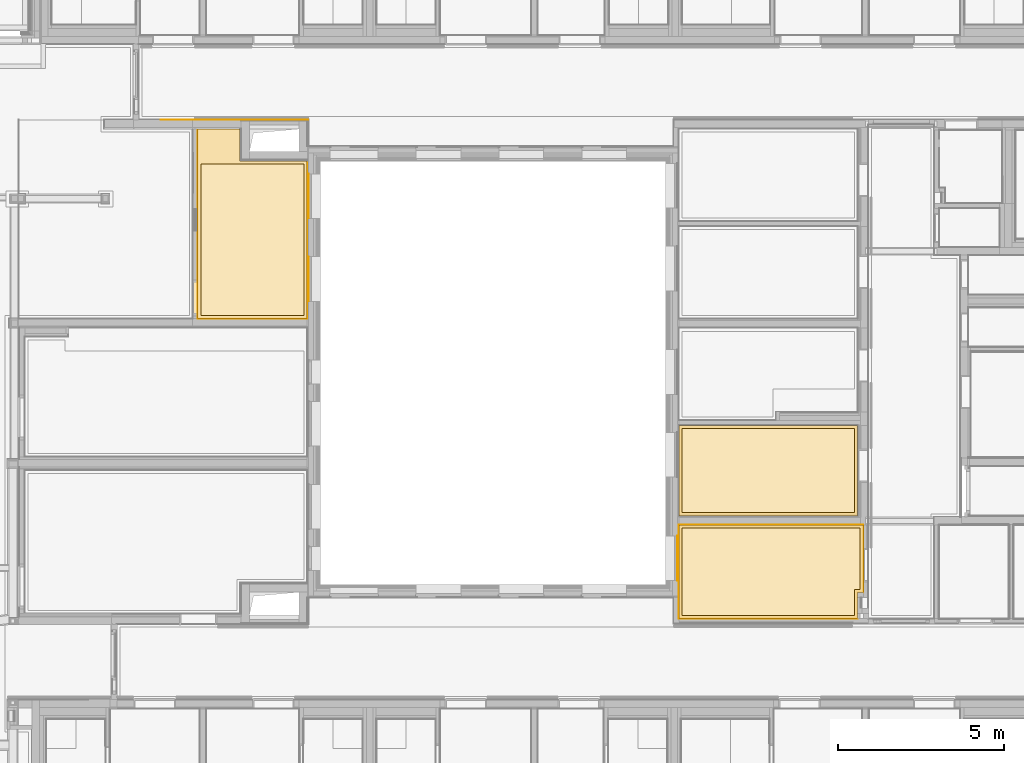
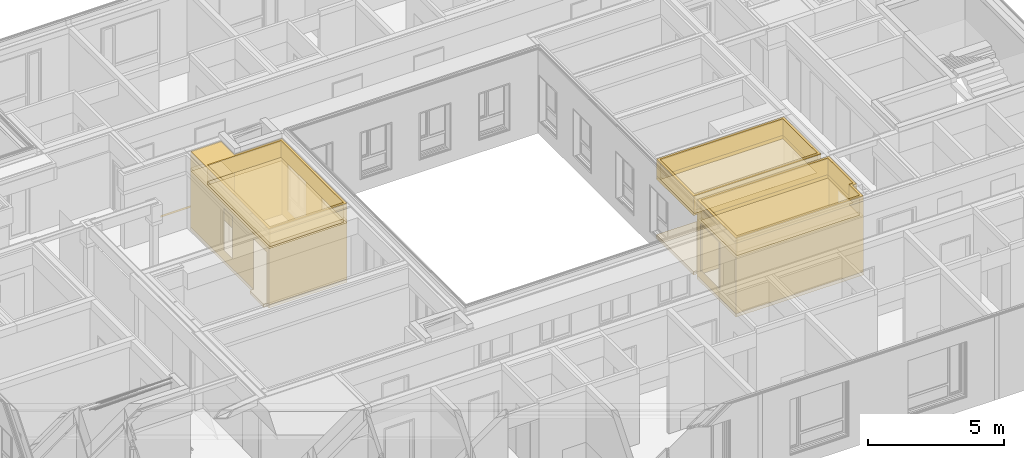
# One storey, part 191 of 222: 30 coverings.
"""IFC4 building model written with IfcOpenShell, lengths in metres."""

from ifc_helpers import new_model, entity, si_unit, converted_unit, derived_unit, frame, frame_2d, origin, origin_with_axes, place, context, subcontext, project, spatial, polyline, rectangle, outline, extrude, material, layer, layer_set, layer_usage, element, save


model = new_model("IFC4")

# Units and contexts
model_context = context("Model", 3, precision=1e-05, world=origin())
body_context = subcontext(model_context, "Body", "Model", "MODEL_VIEW")
ifc_project = project(units=[si_unit("LENGTHUNIT", "METRE"), si_unit("AREAUNIT", "SQUARE_METRE"), si_unit("VOLUMEUNIT", "CUBIC_METRE"), si_unit("MASSUNIT", "GRAM", prefix="KILO"), converted_unit("PLANEANGLEUNIT", "DEGREE", entity("IfcPlaneAngleMeasure", 0.0174532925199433), si_unit("PLANEANGLEUNIT", "RADIAN"), dimensions=[0, 0, 0, 0, 0, 0, 0]), derived_unit("THERMALTRANSMITTANCEUNIT", [(si_unit("POWERUNIT", "WATT"), 1), (si_unit("THERMODYNAMICTEMPERATUREUNIT", "KELVIN"), -1), (si_unit("LENGTHUNIT", "METRE"), -2)]), derived_unit("VOLUMETRICFLOWRATEUNIT", [(si_unit("LENGTHUNIT", "METRE"), 3), (converted_unit("TIMEUNIT", "hour", entity("IfcTimeMeasure", 3600.0), si_unit("TIMEUNIT", "SECOND"), dimensions=[0, 0, 1, 0, 0, 0, 0]), -1), (si_unit("LENGTHUNIT", "METRE"), -1)])], contexts=[model_context])

# Site, building, storey, space
site_placement = place(None, origin())
site = spatial("IfcSite", under=ifc_project, at=site_placement, Name="Psychiatrie Neubau Wunstorf", CompositionType="ELEMENT")
building_placement = place(site_placement, origin())
building = spatial("IfcBuilding", under=site, at=building_placement, Name="Neubau H2 Stationsgebäude", CompositionType="ELEMENT")
storey_placement = place(building_placement, frame((0.0, 0.0, 3.6)))
storey = spatial("IfcBuildingStorey", under=building, at=storey_placement, Name="H2 Ebene +1", CompositionType="ELEMENT", Elevation=3.6)
space_1_placement = place(storey_placement, frame((74.055, 22.036, 0.0)))
space_1 = spatial("IfcSpace", under=storey, at=space_1_placement, Name="WUN-H2-E01-073", CompositionType="ELEMENT")

# Covering
ifc_material_1 = material(Name="97")
ifc_layer_1 = layer(ifc_material_1, 0.001)
ifc_layer_set_1 = layer_set([ifc_layer_1])
ifc_layer_usage_1 = layer_usage(ifc_layer_set_1, "AXIS3", "POSITIVE", 0.0)
covering_1_placement = place(space_1_placement, frame((0.66, 0.799999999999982, 0.8)))
element("IfcCovering", 1, at=covering_1_placement, inside=space_1, material=ifc_layer_usage_1, Name="Handlauf", PredefinedType="CLADDING", context=body_context, shape_type="SweptSolid", body=[
    extrude(rectangle(XDim=4.46499963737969, YDim=0.1, at=frame_2d((2.23249981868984, -0.05), x_axis=(1.0, 0.0))), frame((0.0, 0.0, 0.0), z_axis=(-1.1406877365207e-14, 1.0, 0.0), x_axis=(1.0, 1.1406877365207e-14, 0.0)), (0.0, 0.0, 1.0), 0.001),
])

# Space
space_2_placement = place(storey_placement, frame((75.834, 16.8325, 0.0)))
space_2 = spatial("IfcSpace", under=storey, at=space_2_placement, Name="WUN-H2-E01-056", CompositionType="ELEMENT")

# Coverings
ifc_material_2 = material()
ifc_layer_2 = layer(ifc_material_2, 0.036)
ifc_layer_set_2 = layer_set([ifc_layer_2])
ifc_layer_usage_2 = layer_usage(ifc_layer_set_2, "AXIS3", "POSITIVE", 0.0)
covering_2_placement = place(space_2_placement, frame((0.1, 0.0999999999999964, 3.55)))
element("IfcCovering", 2, at=covering_2_placement, inside=space_2, material=ifc_layer_usage_2, Name="Gipsfaserplatten 2-lagig (BSK)", PredefinedType="CEILING", context=body_context, shape_type="SweptSolid", body=[
    extrude(rectangle(XDim=4.56250036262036, YDim=3.105, at=frame_2d((-1.5525, 2.28125018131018), x_axis=(0.0, 1.0))), frame((3.105, 4.56250036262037, 0.0), z_axis=(0.0, 0.0, -1.0), x_axis=(1.0, 0.0, 0.0)), (0.0, 0.0, 1.0), 0.036),
])
ifc_material_3 = material(Name="Installationshöhe")
ifc_layer_3 = layer(ifc_material_3, 0.714)
ifc_layer_set_3 = layer_set([ifc_layer_3])
ifc_layer_usage_3 = layer_usage(ifc_layer_set_3, "AXIS3", "POSITIVE", 0.0)
covering_3_placement = place(space_2_placement, frame((0.1, 0.0999999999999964, 3.514)))
element("IfcCovering", 3, at=covering_3_placement, inside=space_2, material=ifc_layer_usage_3, Name="Gipsfaserplatten 2-lagig (BSK)", PredefinedType="CEILING", context=body_context, shape_type="SweptSolid", body=[
    extrude(rectangle(XDim=4.56250036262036, YDim=3.105, at=frame_2d((-1.5525, 2.28125018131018), x_axis=(0.0, 1.0))), frame((3.105, 4.56250036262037, 0.0), z_axis=(0.0, 0.0, -1.0), x_axis=(1.0, 0.0, 0.0)), (0.0, 0.0, 1.0), 0.714),
])
ifc_material_4 = material(Name="Aa")
ifc_layer_4 = layer(ifc_material_4, 0.15)
ifc_layer_set_4 = layer_set([ifc_layer_4])
ifc_layer_usage_4 = layer_usage(ifc_layer_set_4, "AXIS3", "POSITIVE", 0.0)
covering_4_placement = place(space_2_placement, frame((0.1, 0.0999999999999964, 2.8)))
element("IfcCovering", 4, at=covering_4_placement, inside=space_2, material=ifc_layer_usage_4, Name="Gipsfaserplatten 2-lagig (BSK)", PredefinedType="CEILING", context=body_context, shape_type="SweptSolid", body=[
    extrude(rectangle(XDim=4.56250036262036, YDim=3.105, at=frame_2d((-1.5525, 2.28125018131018), x_axis=(0.0, 1.0))), frame((3.105, 4.56250036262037, 0.0), z_axis=(0.0, 0.0, -1.0), x_axis=(1.0, 0.0, 0.0)), (0.0, 0.0, 1.0), 0.15),
])
ifc_material_5 = material(Name="D1")
ifc_layer_5 = layer(ifc_material_5, 0.001)
ifc_layer_set_5 = layer_set([ifc_layer_5])
ifc_layer_usage_5 = layer_usage(ifc_layer_set_5, "AXIS3", "POSITIVE", 0.0)
covering_5_placement = place(space_2_placement, frame((0.1, 0.0999999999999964, 2.65)))
element("IfcCovering", 5, at=covering_5_placement, inside=space_2, material=ifc_layer_usage_5, Name="Gipsfaserplatten 2-lagig (BSK)", PredefinedType="CEILING", context=body_context, shape_type="SweptSolid", body=[
    extrude(rectangle(XDim=4.56250036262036, YDim=3.105, at=frame_2d((-1.5525, 2.28125018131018), x_axis=(0.0, 1.0))), frame((3.105, 4.56250036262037, 0.0), z_axis=(0.0, 0.0, -1.0), x_axis=(1.0, 0.0, 0.0)), (0.0, 0.0, 1.0), 0.001),
])
ifc_material_6 = material()
ifc_layer_6 = layer(ifc_material_6, 0.036)
ifc_layer_set_6 = layer_set([ifc_layer_6])
ifc_layer_usage_6 = layer_usage(ifc_layer_set_6, "AXIS3", "POSITIVE", 0.0)
covering_6_placement = place(space_2_placement, frame((0.0, 0.0, 3.55)))
element("IfcCovering", 6, at=covering_6_placement, inside=space_2, material=ifc_layer_usage_6, Name="Gipsfaserplatten 2-lagig (BSK)", PredefinedType="CEILING", context=body_context, shape_type="SweptSolid", body=[
    extrude(outline(polyline([(3.305, 0.968999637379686), (3.305, 5.73150000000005), (0.0, 5.73150000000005), (0.0, 0.0), (1.28600036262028, 0.0), (1.28600036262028, 0.968999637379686), (3.305, 0.968999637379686)]), holes=[polyline([(1.18600036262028, 1.06906801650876), (1.18600036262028, 1.0690000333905), (0.1, 1.0690000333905), (0.1, 5.63150000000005), (3.205, 5.63150000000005), (3.205, 1.06899963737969), (1.18600036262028, 1.06906801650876)])]), frame((0.0, 5.73150000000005, 0.0), z_axis=(0.0, 0.0, -1.0), x_axis=(1.0, 0.0, 0.0)), (0.0, 0.0, 1.0), 0.036),
])
ifc_material_7 = material(Name="Installationshöhe")
ifc_layer_7 = layer(ifc_material_7, 0.714)
ifc_layer_set_7 = layer_set([ifc_layer_7])
ifc_layer_usage_7 = layer_usage(ifc_layer_set_7, "AXIS3", "POSITIVE", 0.0)
covering_7_placement = place(space_2_placement, frame((0.0, 0.0, 3.514)))
element("IfcCovering", 7, at=covering_7_placement, inside=space_2, material=ifc_layer_usage_7, Name="Gipsfaserplatten 2-lagig (BSK)", PredefinedType="CEILING", context=body_context, shape_type="SweptSolid", body=[
    extrude(outline(polyline([(3.305, 0.968999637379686), (3.305, 5.73150000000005), (0.0, 5.73150000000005), (0.0, 0.0), (1.28600036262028, 0.0), (1.28600036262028, 0.968999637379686), (3.305, 0.968999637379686)]), holes=[polyline([(1.18600036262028, 1.06906801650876), (1.18600036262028, 1.0690000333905), (0.1, 1.0690000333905), (0.1, 5.63150000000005), (3.205, 5.63150000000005), (3.205, 1.06899963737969), (1.18600036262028, 1.06906801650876)])]), frame((0.0, 5.73150000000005, 0.0), z_axis=(0.0, 0.0, -1.0), x_axis=(1.0, 0.0, 0.0)), (0.0, 0.0, 1.0), 0.714),
])
ifc_material_8 = material(Name="A1")
ifc_layer_8 = layer(ifc_material_8, 0.15)
ifc_layer_set_8 = layer_set([ifc_layer_8])
ifc_layer_usage_8 = layer_usage(ifc_layer_set_8, "AXIS3", "POSITIVE", 0.0)
covering_8_placement = place(space_2_placement, frame((0.0, 0.0, 2.8)))
element("IfcCovering", 8, at=covering_8_placement, inside=space_2, material=ifc_layer_usage_8, Name="Gipsfaserplatten 2-lagig (BSK)", PredefinedType="CEILING", context=body_context, shape_type="SweptSolid", body=[
    extrude(outline(polyline([(3.305, 0.968999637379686), (3.305, 5.73150000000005), (0.0, 5.73150000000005), (0.0, 0.0), (1.28600036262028, 0.0), (1.28600036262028, 0.968999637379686), (3.305, 0.968999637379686)]), holes=[polyline([(1.18600036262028, 1.06906801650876), (1.18600036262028, 1.0690000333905), (0.1, 1.0690000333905), (0.1, 5.63150000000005), (3.205, 5.63150000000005), (3.205, 1.06899963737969), (1.18600036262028, 1.06906801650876)])]), frame((0.0, 5.73150000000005, 0.0), z_axis=(0.0, 0.0, -1.0), x_axis=(1.0, 0.0, 0.0)), (0.0, 0.0, 1.0), 0.15),
])
ifc_material_9 = material(Name="D1")
ifc_layer_9 = layer(ifc_material_9, 0.001)
ifc_layer_set_9 = layer_set([ifc_layer_9])
ifc_layer_usage_9 = layer_usage(ifc_layer_set_9, "AXIS3", "POSITIVE", 0.0)
covering_9_placement = place(space_2_placement, frame((0.0, 0.0, 2.65)))
element("IfcCovering", 9, at=covering_9_placement, inside=space_2, material=ifc_layer_usage_9, Name="Gipsfaserplatten 2-lagig (BSK)", PredefinedType="CEILING", context=body_context, shape_type="SweptSolid", body=[
    extrude(outline(polyline([(3.305, 0.968999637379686), (3.305, 5.73150000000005), (0.0, 5.73150000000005), (0.0, 0.0), (1.28600036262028, 0.0), (1.28600036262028, 0.968999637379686), (3.305, 0.968999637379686)]), holes=[polyline([(1.18600036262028, 1.06906801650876), (1.18600036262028, 1.0690000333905), (0.1, 1.0690000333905), (0.1, 5.63150000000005), (3.205, 5.63150000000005), (3.205, 1.06899963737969), (1.18600036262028, 1.06906801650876)])]), frame((0.0, 5.73150000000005, 0.0), z_axis=(0.0, 0.0, -1.0), x_axis=(1.0, 0.0, 0.0)), (0.0, 0.0, 1.0), 0.001),
])
ifc_material_10 = material(Name="Ku1")
ifc_layer_10 = layer(ifc_material_10, 0.15)
ifc_layer_set_10 = layer_set([ifc_layer_10])
ifc_layer_usage_10 = layer_usage(ifc_layer_set_10, "AXIS3", "POSITIVE", 0.0)
covering_10_placement = place(space_2_placement, frame((-0.15, 0.0, 0.0)))
element("IfcCovering", 10, at=covering_10_placement, inside=space_2, material=ifc_layer_usage_10, Name="PVC Bahnenware Holzoptik", PredefinedType="FLOORING", context=body_context, shape_type="SweptSolid", body=[
    extrude(rectangle(XDim=0.15, YDim=1.01, at=frame_2d((-0.075, -0.505), x_axis=(-1.0, 0.0))), frame((0.15, 1.13499999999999, 0.0), z_axis=(0.0, 0.0, 1.0), x_axis=(1.0, 0.0, 0.0)), (0.0, 0.0, 1.0), 0.15),
    extrude(outline(polyline([(0.0, 0.0), (3.305, 0.0), (3.305, 4.76250036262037), (1.28600036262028, 4.76250036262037), (1.28600036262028, 5.73150000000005), (0.0, 5.73149999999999), (0.0, 0.0)])), frame((0.15, 0.0, 0.0), z_axis=(0.0, 0.0, 1.0), x_axis=(1.0, 0.0, 0.0)), (0.0, 0.0, 1.0), 0.15),
])
ifc_material_11 = material(Name="49")
ifc_layer_11 = layer(ifc_material_11, 0.001)
ifc_layer_set_11 = layer_set([ifc_layer_11])
ifc_layer_usage_11 = layer_usage(ifc_layer_set_11, "AXIS3", "POSITIVE", 0.0)
covering_11_placement = place(space_2_placement, frame((0.0, 0.0, 0.15)))
element("IfcCovering", 11, at=covering_11_placement, inside=space_2, material=ifc_layer_usage_11, PredefinedType="CLADDING", context=body_context, shape_type="SweptSolid", body=[
    extrude(rectangle(XDim=1.28600036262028, YDim=3.15, at=frame_2d((0.643000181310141, -1.575), x_axis=(1.0, 0.0))), frame((1.28600036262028, 5.73150000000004, 0.0), z_axis=(4.80914636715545e-14, -1.0, 0.0), x_axis=(-1.0, -4.80914636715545e-14, 0.0)), (0.0, 0.0, 1.0), 0.001),
    extrude(outline(polyline([(0.0, 3.15), (4.5965, 3.15), (4.5965, 0.89), (5.6065, 0.89), (5.6065, 3.15), (5.73149999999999, 3.15), (5.73149999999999, 0.0), (0.0, 0.0), (0.0, 3.15)]), holes=[polyline([(3.0771446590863, 2.71), (2.4272021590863, 2.71), (2.4272021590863, 0.83), (3.0771446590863, 0.83), (3.0771446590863, 2.71)])]), frame((0.0, 5.73149999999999, 3.15), z_axis=(1.0, -2.36023691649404e-16, 6.27326127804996e-16), x_axis=(-2.36023691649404e-16, -1.0, 0.0)), (0.0, 0.0, 1.0), 0.001),
    extrude(rectangle(XDim=3.305, YDim=3.15, at=frame_2d((1.6525, -1.575), x_axis=(1.0, 0.0))), frame((0.0, 0.0, 0.0), z_axis=(0.0, 1.0, 0.0), x_axis=(1.0, 0.0, 0.0)), (0.0, 0.0, 1.0), 0.001),
    extrude(outline(polyline([(0.0, 3.15), (4.76250036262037, 3.15), (4.76250036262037, 0.0), (0.0, 0.0), (0.0, 3.15)]), holes=[polyline([(1.87549535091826, 2.75), (0.525495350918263, 2.75), (0.525495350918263, 0.635), (1.87549535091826, 0.635), (1.87549535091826, 2.75)]), polyline([(4.37505521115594, 2.75), (3.02505521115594, 2.75), (3.02505521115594, 0.635), (4.37505521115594, 0.635), (4.37505521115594, 2.75)])]), frame((3.30500000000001, 0.0, 3.15), z_axis=(-1.0, 0.0, 0.0), x_axis=(0.0, 1.0, 0.0)), (0.0, 0.0, 1.0), 0.001),
    extrude(rectangle(XDim=2.01899963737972, YDim=3.15, at=frame_2d((1.00949981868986, -1.575), x_axis=(1.0, 0.0))), frame((3.305, 4.76250036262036, 0.0), z_axis=(0.0, -1.0, 0.0), x_axis=(-1.0, 0.0, 0.0)), (0.0, 0.0, 1.0), 0.001),
    extrude(rectangle(XDim=0.968999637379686, YDim=3.15, at=frame_2d((0.484499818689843, -1.575), x_axis=(1.0, 0.0))), frame((1.28600036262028, 4.76250036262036, 0.0), z_axis=(-1.0, 0.0, 0.0), x_axis=(0.0, 1.0, 0.0)), (0.0, 0.0, 1.0), 0.001),
    extrude(rectangle(XDim=1.35, YDim=0.05, at=frame_2d((-0.025, -0.675), x_axis=(0.0, -1.0))), frame((3.355, 0.52549535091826, 2.515), z_axis=(0.0, 0.0, -1.0), x_axis=(1.0, 0.0, 0.0)), (0.0, 0.0, 1.0), 0.001),
    extrude(rectangle(XDim=2.115, YDim=0.05, at=frame_2d((-0.025, -1.0575), x_axis=(0.0, -1.0))), frame((3.355, 0.52549535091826, 0.4), z_axis=(0.0, 1.0, 0.0), x_axis=(1.0, 0.0, 0.0)), (0.0, 0.0, 1.0), 0.001),
    extrude(rectangle(XDim=2.115, YDim=0.05, at=frame_2d((-0.025, -1.0575), x_axis=(0.0, -1.0))), frame((3.305, 1.87549535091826, 0.4), z_axis=(0.0, -1.0, 0.0), x_axis=(-1.0, 0.0, 0.0)), (0.0, 0.0, 1.0), 0.001),
    extrude(rectangle(XDim=0.05, YDim=1.35, at=frame_2d((0.025, -0.675), x_axis=(1.0, 0.0))), frame((3.305, 3.02505521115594, 2.515), z_axis=(0.0, 0.0, -1.0), x_axis=(1.0, 0.0, 0.0)), (0.0, 0.0, 1.0), 0.001),
    extrude(rectangle(XDim=0.05, YDim=2.115, at=frame_2d((0.025, -1.0575), x_axis=(1.0, 0.0))), frame((3.305, 3.02505521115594, 0.4), z_axis=(0.0, 1.0, 0.0), x_axis=(1.0, 0.0, 0.0)), (0.0, 0.0, 1.0), 0.001),
    extrude(rectangle(XDim=2.115, YDim=0.05, at=frame_2d((-0.025, -1.0575), x_axis=(0.0, -1.0))), frame((3.305, 4.37505521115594, 0.4), z_axis=(3.63797880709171e-14, -1.0, -8.60042271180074e-16), x_axis=(-1.0, -3.63797880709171e-14, 0.0)), (0.0, 0.0, 1.0), 0.001),
])

# Space
space_3_placement = place(storey_placement, frame((90.361, 7.77499989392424, 0.0)))
space_3 = spatial("IfcSpace", under=storey, at=space_3_placement, Name="WUN-H2-E01-082", CompositionType="ELEMENT")

# Coverings
ifc_material_12 = material()
ifc_layer_12 = layer(ifc_material_12, 0.036)
ifc_layer_set_12 = layer_set([ifc_layer_12])
ifc_layer_usage_12 = layer_usage(ifc_layer_set_12, "AXIS3", "POSITIVE", 0.0)
covering_12_placement = place(space_3_placement, frame((0.1, 0.0999999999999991, 3.55)))
element("IfcCovering", 12, at=covering_12_placement, inside=space_3, material=ifc_layer_usage_12, Name="Gipsfaserplatten 2-lagig (BSK)", PredefinedType="CEILING", context=body_context, shape_type="SweptSolid", body=[
    extrude(outline(polyline([(5.37150004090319, 1.84550000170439), (5.19650003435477, 1.84550000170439), (5.19650002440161, 2.6355), (0.0, 2.6355), (0.0, 0.0), (5.37150003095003, 0.0), (5.37150004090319, 1.84550000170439)])), frame((0.0, 2.6355, 0.0), z_axis=(0.0, 0.0, -1.0), x_axis=(1.0, 0.0, 0.0)), (0.0, 0.0, 1.0), 0.036),
])
ifc_material_13 = material(Name="Installationshöhe")
ifc_layer_13 = layer(ifc_material_13, 0.714)
ifc_layer_set_13 = layer_set([ifc_layer_13])
ifc_layer_usage_13 = layer_usage(ifc_layer_set_13, "AXIS3", "POSITIVE", 0.0)
covering_13_placement = place(space_3_placement, frame((0.1, 0.0999999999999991, 3.514)))
element("IfcCovering", 13, at=covering_13_placement, inside=space_3, material=ifc_layer_usage_13, Name="Gipsfaserplatten 2-lagig (BSK)", PredefinedType="CEILING", context=body_context, shape_type="SweptSolid", body=[
    extrude(outline(polyline([(5.37150004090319, 1.84550000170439), (5.19650003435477, 1.84550000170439), (5.19650002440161, 2.6355), (0.0, 2.6355), (0.0, 0.0), (5.37150003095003, 0.0), (5.37150004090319, 1.84550000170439)])), frame((0.0, 2.6355, 0.0), z_axis=(0.0, 0.0, -1.0), x_axis=(1.0, 0.0, 0.0)), (0.0, 0.0, 1.0), 0.714),
])
ifc_material_14 = material(Name="Aa")
ifc_layer_14 = layer(ifc_material_14, 0.15)
ifc_layer_set_14 = layer_set([ifc_layer_14])
ifc_layer_usage_14 = layer_usage(ifc_layer_set_14, "AXIS3", "POSITIVE", 0.0)
covering_14_placement = place(space_3_placement, frame((0.1, 0.0999999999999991, 2.8)))
element("IfcCovering", 14, at=covering_14_placement, inside=space_3, material=ifc_layer_usage_14, Name="Gipsfaserplatten 2-lagig (BSK)", PredefinedType="CEILING", context=body_context, shape_type="SweptSolid", body=[
    extrude(outline(polyline([(5.37150004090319, 1.84550000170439), (5.19650003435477, 1.84550000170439), (5.19650002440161, 2.6355), (0.0, 2.6355), (0.0, 0.0), (5.37150003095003, 0.0), (5.37150004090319, 1.84550000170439)])), frame((0.0, 2.6355, 0.0), z_axis=(0.0, 0.0, -1.0), x_axis=(1.0, 0.0, 0.0)), (0.0, 0.0, 1.0), 0.15),
])
ifc_material_15 = material(Name="D1")
ifc_layer_15 = layer(ifc_material_15, 0.001)
ifc_layer_set_15 = layer_set([ifc_layer_15])
ifc_layer_usage_15 = layer_usage(ifc_layer_set_15, "AXIS3", "POSITIVE", 0.0)
covering_15_placement = place(space_3_placement, frame((0.1, 0.0999999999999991, 2.65)))
element("IfcCovering", 15, at=covering_15_placement, inside=space_3, material=ifc_layer_usage_15, Name="Gipsfaserplatten 2-lagig (BSK)", PredefinedType="CEILING", context=body_context, shape_type="SweptSolid", body=[
    extrude(outline(polyline([(5.37150004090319, 1.84550000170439), (5.19650003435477, 1.84550000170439), (5.19650002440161, 2.6355), (0.0, 2.6355), (0.0, 0.0), (5.37150003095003, 0.0), (5.37150004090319, 1.84550000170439)])), frame((0.0, 2.6355, 0.0), z_axis=(0.0, 0.0, -1.0), x_axis=(1.0, 0.0, 0.0)), (0.0, 0.0, 1.0), 0.001),
])
ifc_material_16 = material()
ifc_layer_16 = layer(ifc_material_16, 0.036)
ifc_layer_set_16 = layer_set([ifc_layer_16])
ifc_layer_usage_16 = layer_usage(ifc_layer_set_16, "AXIS3", "POSITIVE", 0.0)
covering_16_placement = place(space_3_placement, frame((0.0, 0.0, 3.55)))
element("IfcCovering", 16, at=covering_16_placement, inside=space_3, material=ifc_layer_usage_16, Name="Gipsfaserplatten 2-lagig (BSK)", PredefinedType="CEILING", context=body_context, shape_type="SweptSolid", body=[
    extrude(outline(polyline([(5.39650003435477, 2.04550000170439), (5.39650002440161, 2.8355), (0.0, 2.8355), (0.0, 0.0), (5.57150003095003, 0.0), (5.57150004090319, 2.04550000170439), (5.39650003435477, 2.04550000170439)]), holes=[polyline([(5.47150004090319, 1.94550000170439), (5.47150003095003, 0.1), (0.1, 0.1), (0.1, 2.7355), (5.29650002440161, 2.7355), (5.29650003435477, 1.94550000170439), (5.47150004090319, 1.94550000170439)])]), frame((0.0, 2.8355, 0.0), z_axis=(0.0, 0.0, -1.0), x_axis=(1.0, 0.0, 0.0)), (0.0, 0.0, 1.0), 0.036),
])
ifc_material_17 = material(Name="Installationshöhe")
ifc_layer_17 = layer(ifc_material_17, 0.714)
ifc_layer_set_17 = layer_set([ifc_layer_17])
ifc_layer_usage_17 = layer_usage(ifc_layer_set_17, "AXIS3", "POSITIVE", 0.0)
covering_17_placement = place(space_3_placement, frame((0.0, 0.0, 3.514)))
element("IfcCovering", 17, at=covering_17_placement, inside=space_3, material=ifc_layer_usage_17, Name="Gipsfaserplatten 2-lagig (BSK)", PredefinedType="CEILING", context=body_context, shape_type="SweptSolid", body=[
    extrude(outline(polyline([(5.39650003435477, 2.04550000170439), (5.39650002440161, 2.8355), (0.0, 2.8355), (0.0, 0.0), (5.57150003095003, 0.0), (5.57150004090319, 2.04550000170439), (5.39650003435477, 2.04550000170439)]), holes=[polyline([(5.47150004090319, 1.94550000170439), (5.47150003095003, 0.1), (0.1, 0.1), (0.1, 2.7355), (5.29650002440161, 2.7355), (5.29650003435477, 1.94550000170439), (5.47150004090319, 1.94550000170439)])]), frame((0.0, 2.8355, 0.0), z_axis=(0.0, 0.0, -1.0), x_axis=(1.0, 0.0, 0.0)), (0.0, 0.0, 1.0), 0.714),
])
ifc_material_18 = material(Name="A1")
ifc_layer_18 = layer(ifc_material_18, 0.15)
ifc_layer_set_18 = layer_set([ifc_layer_18])
ifc_layer_usage_18 = layer_usage(ifc_layer_set_18, "AXIS3", "POSITIVE", 0.0)
covering_18_placement = place(space_3_placement, frame((0.0, 0.0, 2.8)))
element("IfcCovering", 18, at=covering_18_placement, inside=space_3, material=ifc_layer_usage_18, Name="Gipsfaserplatten 2-lagig (BSK)", PredefinedType="CEILING", context=body_context, shape_type="SweptSolid", body=[
    extrude(outline(polyline([(5.39650003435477, 2.04550000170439), (5.39650002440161, 2.8355), (0.0, 2.8355), (0.0, 0.0), (5.57150003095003, 0.0), (5.57150004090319, 2.04550000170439), (5.39650003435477, 2.04550000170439)]), holes=[polyline([(5.47150004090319, 1.94550000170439), (5.47150003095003, 0.1), (0.1, 0.1), (0.1, 2.7355), (5.29650002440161, 2.7355), (5.29650003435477, 1.94550000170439), (5.47150004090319, 1.94550000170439)])]), frame((0.0, 2.8355, 0.0), z_axis=(0.0, 0.0, -1.0), x_axis=(1.0, 0.0, 0.0)), (0.0, 0.0, 1.0), 0.15),
])
ifc_material_19 = material(Name="D1")
ifc_layer_19 = layer(ifc_material_19, 0.001)
ifc_layer_set_19 = layer_set([ifc_layer_19])
ifc_layer_usage_19 = layer_usage(ifc_layer_set_19, "AXIS3", "POSITIVE", 0.0)
covering_19_placement = place(space_3_placement, frame((0.0, 0.0, 2.65)))
element("IfcCovering", 19, at=covering_19_placement, inside=space_3, material=ifc_layer_usage_19, Name="Gipsfaserplatten 2-lagig (BSK)", PredefinedType="CEILING", context=body_context, shape_type="SweptSolid", body=[
    extrude(outline(polyline([(5.39650003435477, 2.04550000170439), (5.39650002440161, 2.8355), (0.0, 2.8355), (0.0, 0.0), (5.57150003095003, 0.0), (5.57150004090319, 2.04550000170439), (5.39650003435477, 2.04550000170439)]), holes=[polyline([(5.47150004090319, 1.94550000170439), (5.47150003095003, 0.1), (0.1, 0.1), (0.1, 2.7355), (5.29650002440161, 2.7355), (5.29650003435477, 1.94550000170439), (5.47150004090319, 1.94550000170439)])]), frame((0.0, 2.8355, 0.0), z_axis=(0.0, 0.0, -1.0), x_axis=(1.0, 0.0, 0.0)), (0.0, 0.0, 1.0), 0.001),
])
ifc_material_20 = material(Name="Ku1")
ifc_layer_20 = layer(ifc_material_20, 0.15)
ifc_layer_set_20 = layer_set([ifc_layer_20])
ifc_layer_usage_20 = layer_usage(ifc_layer_set_20, "AXIS3", "POSITIVE", 0.0)
covering_20_placement = place(space_3_placement, origin())
element("IfcCovering", 20, at=covering_20_placement, inside=space_3, material=ifc_layer_usage_20, Name="PVC Bahnenware Holzoptik", PredefinedType="FLOORING", context=body_context, shape_type="SweptSolid", body=[
    extrude(outline(polyline([(5.39650003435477, 0.789999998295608), (5.57150004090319, 0.789999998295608), (5.57150003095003, 2.8355), (0.0, 2.8355), (0.0, 0.0), (5.39650002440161, 0.0), (5.39650003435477, 0.789999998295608)])), origin_with_axes(), (0.0, 0.0, 1.0), 0.15),
])
ifc_material_21 = material(Name="49")
ifc_layer_21 = layer(ifc_material_21, 0.001)
ifc_layer_set_21 = layer_set([ifc_layer_21])
ifc_layer_usage_21 = layer_usage(ifc_layer_set_21, "AXIS3", "POSITIVE", 0.0)
covering_21_placement = place(space_3_placement, frame((-0.05, 0.0, 0.15)))
element("IfcCovering", 21, at=covering_21_placement, inside=space_3, material=ifc_layer_usage_21, PredefinedType="CLADDING", context=body_context, shape_type="SweptSolid", body=[
    extrude(rectangle(XDim=5.39650002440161, YDim=3.15, at=frame_2d((2.69825001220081, -1.575), x_axis=(1.0, 0.0))), frame((0.05, 0.0, 0.0), z_axis=(0.0, 1.0, 0.0), x_axis=(1.0, 0.0, 0.0)), (0.0, 0.0, 1.0), 0.001),
    extrude(rectangle(XDim=0.789999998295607, YDim=3.15, at=frame_2d((0.394999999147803, -1.575), x_axis=(1.0, 0.0))), frame((5.44650002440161, 0.0, 0.0), z_axis=(-1.0, 1.25989377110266e-08, -1.74274008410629e-25), x_axis=(1.25989377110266e-08, 1.0, 0.0)), (0.0, 0.0, 1.0), 0.001),
    extrude(rectangle(XDim=0.17500000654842, YDim=3.15, at=frame_2d((0.08750000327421, -1.575), x_axis=(1.0, 0.0))), frame((5.44650003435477, 0.789999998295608, 0.0), z_axis=(0.0, 1.0, 0.0), x_axis=(1.0, 0.0, 0.0)), (0.0, 0.0, 1.0), 0.001),
    extrude(outline(polyline([(0.0, 3.15), (0.325000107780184, 3.15), (0.325000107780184, 0.89), (1.33500010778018, 0.89), (1.33500010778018, 3.15), (2.04550000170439, 3.15), (2.04550000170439, 0.0), (0.0, 0.0), (0.0, 3.15)])), frame((5.62150003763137, 0.789999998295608, 3.15), z_axis=(-1.0, -4.11132940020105e-09, -6.08733929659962e-10), x_axis=(-4.11132940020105e-09, 1.0, 0.0)), (0.0, 0.0, 1.0), 0.001),
    extrude(rectangle(XDim=5.57150003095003, YDim=3.15, at=frame_2d((2.78575001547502, -1.575), x_axis=(1.0, 0.0))), frame((5.62150003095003, 2.8355, 0.0), z_axis=(0.0, -1.0, 0.0), x_axis=(-1.0, 0.0, 0.0)), (0.0, 0.0, 1.0), 0.001),
    extrude(outline(polyline([(0.0, 3.15), (2.8355, 3.15), (2.8355, 0.0), (0.0, 0.0), (0.0, 3.15)]), holes=[polyline([(1.68476302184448, 2.75), (0.334763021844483, 2.75), (0.334763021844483, 0.635), (1.68476302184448, 0.635), (1.68476302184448, 2.75)])]), frame((0.0500000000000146, 2.8355, 3.15), z_axis=(1.0, 0.0, 0.0), x_axis=(0.0, -1.0, 0.0)), (0.0, 0.0, 1.0), 0.001),
    extrude(rectangle(XDim=0.05, YDim=1.35, at=frame_2d((-0.0249999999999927, 0.675), x_axis=(-1.0, 0.0))), frame((0.05, 2.50073697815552, 2.515), z_axis=(0.0, 0.0, -1.0), x_axis=(1.0, 0.0, 0.0)), (0.0, 0.0, 1.0), 0.001),
    extrude(rectangle(XDim=0.05, YDim=2.115, at=frame_2d((0.025, -1.0575), x_axis=(1.0, 0.0))), frame((0.05, 2.50073697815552, 0.4), z_axis=(0.0, -1.0, 0.0), x_axis=(-1.0, 0.0, 0.0)), (0.0, 0.0, 1.0), 0.001),
    extrude(rectangle(XDim=2.115, YDim=0.0499999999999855, at=frame_2d((-0.0249999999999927, -1.0575), x_axis=(0.0, -1.0))), frame((0.05, 1.15073697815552, 0.4), z_axis=(0.0, 1.0, 0.0), x_axis=(1.0, 0.0, 0.0)), (0.0, 0.0, 1.0), 0.001),
])

# Space
space_4_placement = place(storey_placement, frame((90.361, 10.8824998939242, 0.0)))
space_4 = spatial("IfcSpace", under=storey, at=space_4_placement, Name="WUN-H2-E01-083", CompositionType="ELEMENT")

# Coverings
ifc_material_22 = material()
ifc_layer_22 = layer(ifc_material_22, 0.036)
ifc_layer_set_22 = layer_set([ifc_layer_22])
ifc_layer_usage_22 = layer_usage(ifc_layer_set_22, "AXIS3", "POSITIVE", 0.0)
covering_22_placement = place(space_4_placement, frame((0.100000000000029, 0.100000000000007, 3.55)))
element("IfcCovering", 22, at=covering_22_placement, inside=space_4, material=ifc_layer_usage_22, Name="Gipsfaserplatten 2-lagig (BSK)", PredefinedType="CEILING", context=body_context, shape_type="SweptSolid", body=[
    extrude(rectangle(XDim=2.52850010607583, YDim=5.20000003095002, at=frame_2d((-2.60000001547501, 1.26425005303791), x_axis=(0.0, 1.0))), frame((5.20000003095, 2.52850010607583, 0.0), z_axis=(0.0, 0.0, -1.0), x_axis=(1.0, 0.0, 0.0)), (0.0, 0.0, 1.0), 0.036),
])
ifc_material_23 = material(Name="Installationshöhe")
ifc_layer_23 = layer(ifc_material_23, 0.714)
ifc_layer_set_23 = layer_set([ifc_layer_23])
ifc_layer_usage_23 = layer_usage(ifc_layer_set_23, "AXIS3", "POSITIVE", 0.0)
covering_23_placement = place(space_4_placement, frame((0.100000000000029, 0.100000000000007, 3.514)))
element("IfcCovering", 23, at=covering_23_placement, inside=space_4, material=ifc_layer_usage_23, Name="Gipsfaserplatten 2-lagig (BSK)", PredefinedType="CEILING", context=body_context, shape_type="SweptSolid", body=[
    extrude(rectangle(XDim=2.52850010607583, YDim=5.20000003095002, at=frame_2d((-2.60000001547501, 1.26425005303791), x_axis=(0.0, 1.0))), frame((5.20000003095, 2.52850010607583, 0.0), z_axis=(0.0, 0.0, -1.0), x_axis=(1.0, 0.0, 0.0)), (0.0, 0.0, 1.0), 0.714),
])
ifc_material_24 = material(Name="Aa")
ifc_layer_24 = layer(ifc_material_24, 0.15)
ifc_layer_set_24 = layer_set([ifc_layer_24])
ifc_layer_usage_24 = layer_usage(ifc_layer_set_24, "AXIS3", "POSITIVE", 0.0)
covering_24_placement = place(space_4_placement, frame((0.100000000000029, 0.100000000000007, 2.8)))
element("IfcCovering", 24, at=covering_24_placement, inside=space_4, material=ifc_layer_usage_24, Name="Gipsfaserplatten 2-lagig (BSK)", PredefinedType="CEILING", context=body_context, shape_type="SweptSolid", body=[
    extrude(rectangle(XDim=2.52850010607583, YDim=5.20000003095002, at=frame_2d((-2.60000001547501, 1.26425005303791), x_axis=(0.0, 1.0))), frame((5.20000003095, 2.52850010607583, 0.0), z_axis=(0.0, 0.0, -1.0), x_axis=(1.0, 0.0, 0.0)), (0.0, 0.0, 1.0), 0.15),
])
ifc_material_25 = material(Name="D1")
ifc_layer_25 = layer(ifc_material_25, 0.001)
ifc_layer_set_25 = layer_set([ifc_layer_25])
ifc_layer_usage_25 = layer_usage(ifc_layer_set_25, "AXIS3", "POSITIVE", 0.0)
covering_25_placement = place(space_4_placement, frame((0.100000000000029, 0.100000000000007, 2.65)))
element("IfcCovering", 25, at=covering_25_placement, inside=space_4, material=ifc_layer_usage_25, Name="Gipsfaserplatten 2-lagig (BSK)", PredefinedType="CEILING", context=body_context, shape_type="SweptSolid", body=[
    extrude(rectangle(XDim=2.52850010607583, YDim=5.20000003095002, at=frame_2d((-2.60000001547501, 1.26425005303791), x_axis=(0.0, 1.0))), frame((5.20000003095, 2.52850010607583, 0.0), z_axis=(0.0, 0.0, -1.0), x_axis=(1.0, 0.0, 0.0)), (0.0, 0.0, 1.0), 0.001),
])
ifc_material_26 = material()
ifc_layer_26 = layer(ifc_material_26, 0.036)
ifc_layer_set_26 = layer_set([ifc_layer_26])
ifc_layer_usage_26 = layer_usage(ifc_layer_set_26, "AXIS3", "POSITIVE", 0.0)
covering_26_placement = place(space_4_placement, frame((0.0, 0.0, 3.55)))
element("IfcCovering", 26, at=covering_26_placement, inside=space_4, material=ifc_layer_usage_26, Name="Gipsfaserplatten 2-lagig (BSK)", PredefinedType="CEILING", context=body_context, shape_type="SweptSolid", body=[
    extrude(outline(polyline([(5.39999990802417, 2.72850006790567), (0.0, 2.72850006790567), (0.0, 0.0), (5.39999990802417, 0.0), (5.39999990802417, 2.72850006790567)]), holes=[polyline([(5.30000003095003, 2.62850006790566), (5.30000003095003, 0.0999999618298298), (0.100000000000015, 0.0999999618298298), (0.100000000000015, 2.62850006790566), (5.30000003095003, 2.62850006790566)])]), frame((0.0, 2.72850006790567, 0.0), z_axis=(0.0, 0.0, -1.0), x_axis=(1.0, 0.0, 0.0)), (0.0, 0.0, 1.0), 0.036),
])
ifc_material_27 = material(Name="Installationshöhe")
ifc_layer_27 = layer(ifc_material_27, 0.714)
ifc_layer_set_27 = layer_set([ifc_layer_27])
ifc_layer_usage_27 = layer_usage(ifc_layer_set_27, "AXIS3", "POSITIVE", 0.0)
covering_27_placement = place(space_4_placement, frame((0.0, 0.0, 3.514)))
element("IfcCovering", 27, at=covering_27_placement, inside=space_4, material=ifc_layer_usage_27, Name="Gipsfaserplatten 2-lagig (BSK)", PredefinedType="CEILING", context=body_context, shape_type="SweptSolid", body=[
    extrude(outline(polyline([(5.39999990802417, 2.72850006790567), (0.0, 2.72850006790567), (0.0, 0.0), (5.39999990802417, 0.0), (5.39999990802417, 2.72850006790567)]), holes=[polyline([(5.30000003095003, 2.62850006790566), (5.30000003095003, 0.0999999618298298), (0.100000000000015, 0.0999999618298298), (0.100000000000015, 2.62850006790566), (5.30000003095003, 2.62850006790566)])]), frame((0.0, 2.72850006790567, 0.0), z_axis=(0.0, 0.0, -1.0), x_axis=(1.0, 0.0, 0.0)), (0.0, 0.0, 1.0), 0.714),
])
ifc_material_28 = material(Name="A1")
ifc_layer_28 = layer(ifc_material_28, 0.15)
ifc_layer_set_28 = layer_set([ifc_layer_28])
ifc_layer_usage_28 = layer_usage(ifc_layer_set_28, "AXIS3", "POSITIVE", 0.0)
covering_28_placement = place(space_4_placement, frame((0.0, 0.0, 2.8)))
element("IfcCovering", 28, at=covering_28_placement, inside=space_4, material=ifc_layer_usage_28, Name="Gipsfaserplatten 2-lagig (BSK)", PredefinedType="CEILING", context=body_context, shape_type="SweptSolid", body=[
    extrude(outline(polyline([(5.39999990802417, 2.72850006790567), (0.0, 2.72850006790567), (0.0, 0.0), (5.39999990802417, 0.0), (5.39999990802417, 2.72850006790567)]), holes=[polyline([(5.30000003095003, 2.62850006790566), (5.30000003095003, 0.0999999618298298), (0.100000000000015, 0.0999999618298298), (0.100000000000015, 2.62850006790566), (5.30000003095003, 2.62850006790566)])]), frame((0.0, 2.72850006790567, 0.0), z_axis=(0.0, 0.0, -1.0), x_axis=(1.0, 0.0, 0.0)), (0.0, 0.0, 1.0), 0.15),
])
ifc_material_29 = material(Name="D1")
ifc_layer_29 = layer(ifc_material_29, 0.001)
ifc_layer_set_29 = layer_set([ifc_layer_29])
ifc_layer_usage_29 = layer_usage(ifc_layer_set_29, "AXIS3", "POSITIVE", 0.0)
covering_29_placement = place(space_4_placement, frame((0.0, 0.0, 2.65)))
element("IfcCovering", 29, at=covering_29_placement, inside=space_4, material=ifc_layer_usage_29, Name="Gipsfaserplatten 2-lagig (BSK)", PredefinedType="CEILING", context=body_context, shape_type="SweptSolid", body=[
    extrude(outline(polyline([(5.39999990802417, 2.72850006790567), (0.0, 2.72850006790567), (0.0, 0.0), (5.39999990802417, 0.0), (5.39999990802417, 2.72850006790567)]), holes=[polyline([(5.30000003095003, 2.62850006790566), (5.30000003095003, 0.0999999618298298), (0.100000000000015, 0.0999999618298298), (0.100000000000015, 2.62850006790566), (5.30000003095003, 2.62850006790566)])]), frame((0.0, 2.72850006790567, 0.0), z_axis=(0.0, 0.0, -1.0), x_axis=(1.0, 0.0, 0.0)), (0.0, 0.0, 1.0), 0.001),
])
ifc_material_30 = material(Name="Ku1")
ifc_layer_30 = layer(ifc_material_30, 0.15)
ifc_layer_set_30 = layer_set([ifc_layer_30])
ifc_layer_usage_30 = layer_usage(ifc_layer_set_30, "AXIS3", "POSITIVE", 0.0)
covering_30_placement = place(space_4_placement, origin())
element("IfcCovering", 30, at=covering_30_placement, inside=space_4, material=ifc_layer_usage_30, Name="PVC Bahnenware Holzoptik", PredefinedType="FLOORING", context=body_context, shape_type="SweptSolid", body=[
    extrude(rectangle(XDim=5.39999990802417, YDim=2.72850006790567, at=frame_2d((-2.69999995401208, -1.36425003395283), x_axis=(-1.0, 0.0))), frame((5.39999990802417, 2.72850006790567, 0.0), z_axis=(0.0, 0.0, 1.0), x_axis=(1.0, 0.0, 0.0)), (0.0, 0.0, 1.0), 0.15),
])

save(model, "model.ifc")
